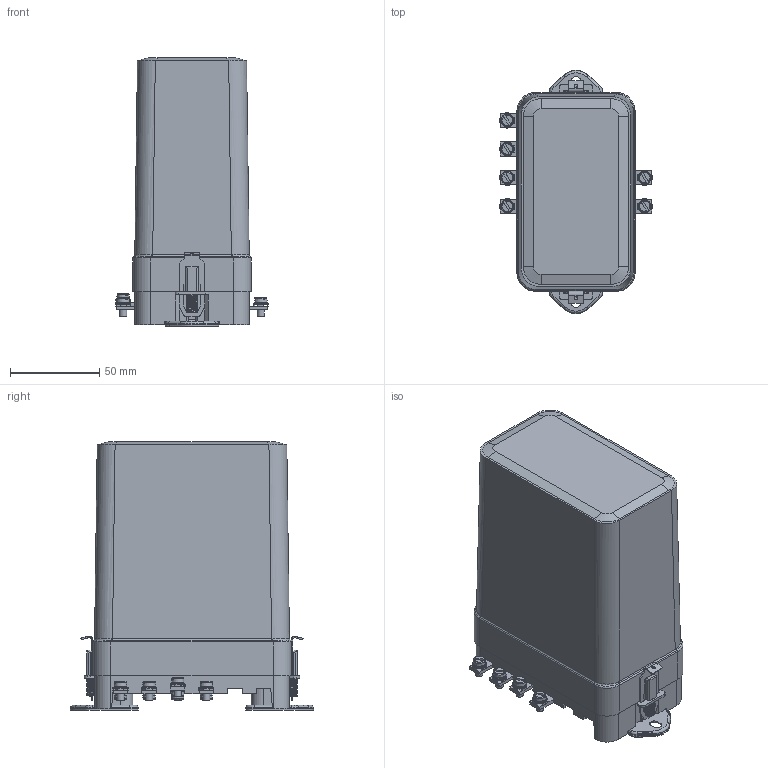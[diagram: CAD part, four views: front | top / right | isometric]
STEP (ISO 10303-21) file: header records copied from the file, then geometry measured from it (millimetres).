
FILE_DESCRIPTION(('STEP AP214'), '1');
FILE_NAME('ÐÍ-51 ïåðåäíåå ïðèñîåäèíåíèå', '', ('UNSPECIFIED'), ('UNSPECIFIED'), 'ASCON STEP Converter 1.3', 'ASCON Math Kernel', '');
FILE_SCHEMA(('AUTOMOTIVE_DESIGN { 1 0 10303 214 3 1 1}'));
Length unit declared in the file: millimetre
Bounding box: 85.5 x 136 x 150.3 mm (x, y, z)
Volume: 166228.3 mm3; surface area: 134331.1 mm2
Topology: 4 solids, 10 shells, 1764 faces, 4844 edges, 3076 vertices
Faces by surface type: plane 1043, cylinder 480, torus 168, bspline 50, cone 21, sphere 2
Full cylindrical faces by diameter (mm): 2 x2, 3.242 x6, 3.5 x2, 4 x26, 4.2 x6, 4.3 x7, 5 x2, 5.3 x4, 5.5 x15, 6.9 x2, 8 x2, 9.3 x2
Entity records: 83207 total; most frequent: CARTESIAN_POINT 24656, ORIENTED_EDGE 9404, DIRECTION 9005, EDGE_CURVE 4708, VERTEX_POINT 3071, AXIS2_PLACEMENT_3D 3007, LINE 2991, VECTOR 2991
